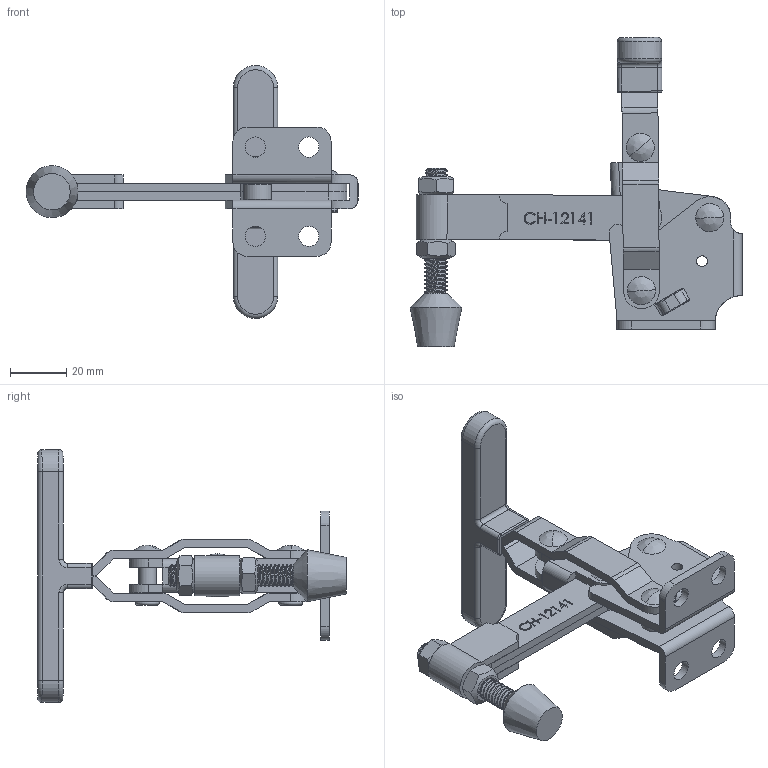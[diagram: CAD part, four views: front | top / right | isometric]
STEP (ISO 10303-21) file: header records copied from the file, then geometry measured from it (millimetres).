
FILE_DESCRIPTION(/* description */ ('STEP AP203'),/* implementation_level */ '2;1');
FILE_NAME(/* name */ 'E:\SERWER_ZAPAS\MODELE brakujace\brakujące stepy_08012019\CH-12141\CH-12141_ZAMKNIETY.stp',/* time_stamp */ '2019-01-31T15:17:56+01:00',/* author */ ('Admin'),/* organization */ ('Microsoft'),/* preprocessor_version */ 'ST-DEVELOPER v17.2',/* originating_system */ 'Autodesk Inventor 2019',/* authorisation */ '');
FILE_SCHEMA (('AUTOMOTIVE_DESIGN { 1 0 10303 214 3 1 1 }'));
Products named in the file (10): CH-12141_ZAMKNIETY; CH-12130-01 FLANGED BASE; CH-12130-04 CONNECTING-PLATE; CH-12130-05; CH-12130-06; CH-12130-08; CH-FC-56212 SPINDLE SUPPLIED; CH-FC-56212 Nut; CH-12141-02 SHORT SOLID BAR_Ä¬ÈÏ_°
´¼Ó¹¤_; CH-12148-03 T-HANDLE
Assembly tree (12 placements, depth 2):
  CH-12141_ZAMKNIETY
    CH-12130-01 FLANGED BASE
    CH-12130-04 CONNECTING-PLATE
    CH-12130-05
    CH-12130-08  x2
    CH-12130-06  x2
    CH-FC-56212 Nut  x2
    CH-FC-56212 SPINDLE SUPPLIED
    CH-12141-02 SHORT SOLID BAR_Ä¬ÈÏ_°
´¼Ó¹¤_
    CH-12148-03 T-HANDLE
Bounding box: 118.19 x 110 x 90 mm (x, y, z)
Volume: 56782 mm3; surface area: 40390.5 mm2
Topology: 14 solids, 14 shells, 664 faces, 1846 edges, 1237 vertices
Faces by surface type: plane 294, bspline 161, cylinder 159, torus 30, cone 20
Full cylindrical faces by diameter (mm): 1.55 x1, 1.744 x1, 3.9 x2, 6.3 x6, 6.4 x20, 6.8 x1, 7.2 x4, 7.92 x32, 8.4 x2, 10 x1
Entity records: 39590 total; most frequent: CARTESIAN_POINT 23969, ORIENTED_EDGE 3470, DIRECTION 2656, EDGE_CURVE 1735, VERTEX_POINT 1165, LINE 962, VECTOR 962, AXIS2_PLACEMENT_3D 847
